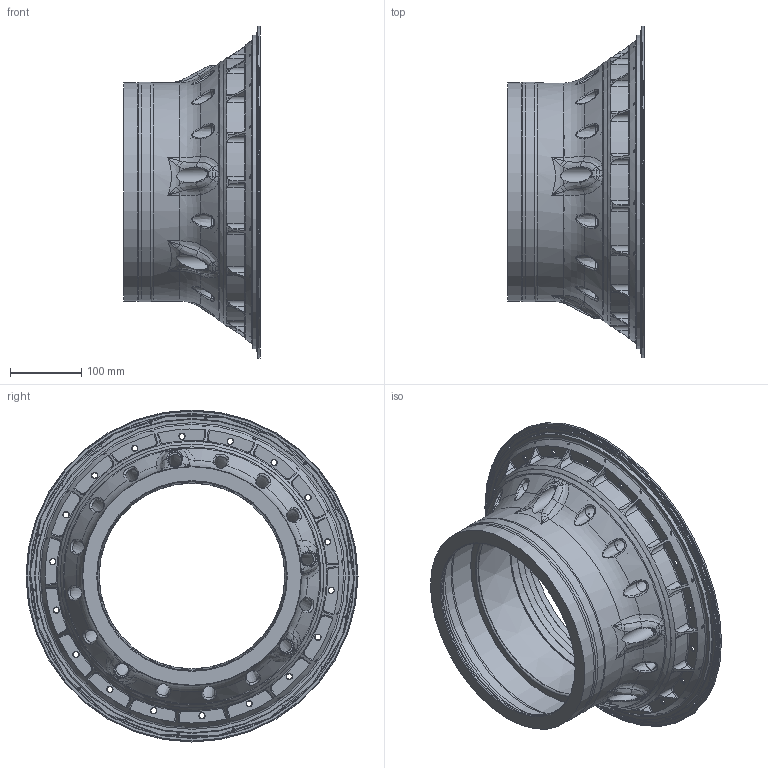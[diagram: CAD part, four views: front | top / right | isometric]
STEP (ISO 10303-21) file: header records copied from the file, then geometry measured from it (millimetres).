
FILE_DESCRIPTION(/* description */ (''),/* implementation_level */ '2;1');
FILE_NAME(/* name */ '2726M26G02_G_1-FWD NOZZLE ASSY.stp',/* time_stamp */ '2026-06-12T10:26:51-04:00',/* author */ (''),/* organization */ (''),/* preprocessor_version */ 'ST-DEVELOPER v16.7',/* originating_system */ 'SIEMENS PLM Software NX 12.0',/* authorisation */ '');
FILE_SCHEMA (('AP203_CONFIGURATION_CONTROLLED_3D_DESIGN_OF_MECHANICAL_PARTS_AND_ASSEMBLIES_MIM_LF { 1 0 10303 403 2 1 2}'));
Products named in the file (5): 2726M26FN1_B_1-INDUCER; 2726M26P01_C_1-FWD FLANGE; 2726M26P02_C_1-AFT FLANGE; 2726M26P05_C_1-WINDAGE COVER; 2726M26G02_G_1-FWD NOZZLE ASSY
Assembly tree (4 placements, depth 2):
  2726M26G02_G_1-FWD NOZZLE ASSY
    2726M26P05_C_1-WINDAGE COVER
    2726M26P02_C_1-AFT FLANGE
    2726M26P01_C_1-FWD FLANGE
    2726M26FN1_B_1-INDUCER
Bounding box: 191.36 x 465.58 x 465.58 mm (x, y, z)
Volume: 687091.8 mm3; surface area: 947452 mm2
Topology: 3 solids, 4 shells, 1957 faces, 5057 edges, 3037 vertices
Faces by surface type: bspline 949, cylinder 466, torus 253, plane 197, cone 72, extrusion 12, sphere 8
Full cylindrical faces by diameter (mm): 1.702 x18, 2.576 x1, 3.793 x18, 7.874 x18, 21.336 x4, 260.096 x1, 261.747 x1, 263.779 x2, 265.125 x1, 281.737 x1, 292.964 x1, 300.431 x2, 301.955 x1, 302.158 x1, 304.673 x1, 305.968 x1, 306.172 x1, 306.273 x1, 307.543 x2, 309.88 x1, 364.338 x1, 367.386 x1, 369.875 x1, 411.937 x1, 439.369 x1, 454.152 x1, 463.855 x1, 465.582 x1
Entity records: 155876 total; most frequent: CARTESIAN_POINT 116265, ORIENTED_EDGE 9248, DIRECTION 5625, EDGE_CURVE 4624, VERTEX_POINT 2890, AXIS2_PLACEMENT_3D 2577, B_SPLINE_CURVE_WITH_KNOTS 2458, EDGE_LOOP 2318
